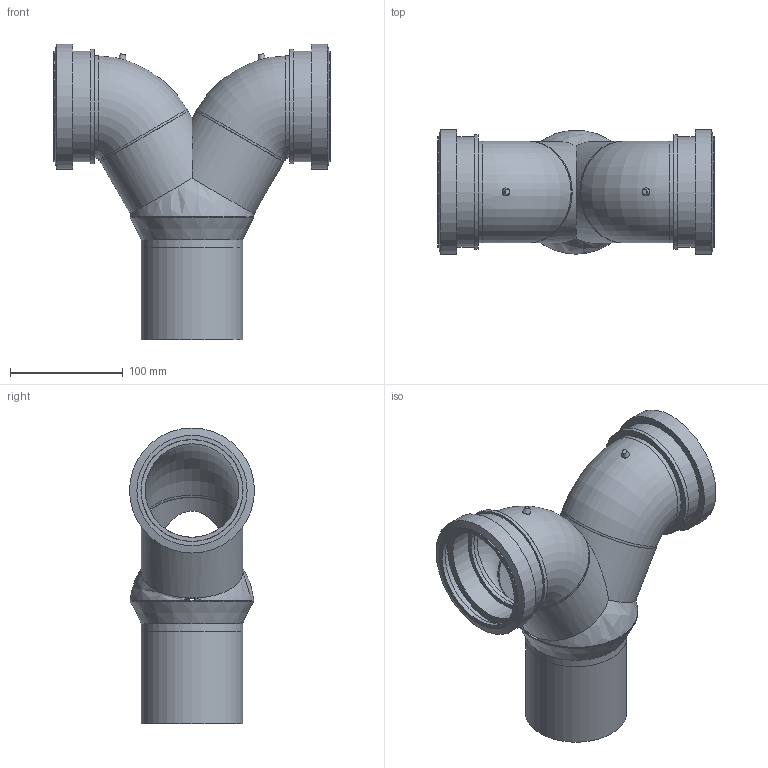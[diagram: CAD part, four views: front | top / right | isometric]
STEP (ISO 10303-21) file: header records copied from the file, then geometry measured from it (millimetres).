
FILE_DESCRIPTION(/* description */ (''),/* implementation_level */ '2;1');
FILE_NAME(/* name */ 'Z:\Geberit\Export\NewStep\Doppelanschlussbogen_Iassembly\stp\308923.stp',/* time_stamp */ '2014-04-03T19:01:25+02:00',/* author */ ('Bründl'),/* organization */ (''),/* preprocessor_version */ 'ST-DEVELOPER v15.2',/* originating_system */ 'Autodesk Inventor 2014',/* authorisation */ '');
FILE_SCHEMA (('AUTOMOTIVE_DESIGN { 1 0 10303 214 3 1 1 }'));
Length unit declared in the file: millimetre
Products named in the file (11): 863214; 863210; 853796; 866646; 387121; 862535; 863215; 367580; 863211; 863.213; 308923
Bounding box: 245.6 x 111 x 262.84 mm (x, y, z)
Volume: 508864.3 mm3; surface area: 264902.3 mm2
Topology: 7 solids, 7 shells, 73 faces, 144 edges, 92 vertices
Faces by surface type: cylinder 32, plane 27, cone 8, torus 4, sphere 2
Full cylindrical faces by diameter (mm): 79 x1, 82 x2, 83 x1, 83.02 x2, 83.08 x2, 90 x4, 90.38 x6, 90.7 x2, 98 x2, 98.2 x2, 101.4 x1, 102 x2, 103.7 x2, 110 x1, 111 x2
Entity records: 1294 total; most frequent: DIRECTION 236, CARTESIAN_POINT 208, AXIS2_PLACEMENT_3D 118, ORIENTED_EDGE 100, EDGE_LOOP 94, FACE_BOUND 59, EDGE_CURVE 50, VERTEX_POINT 48
